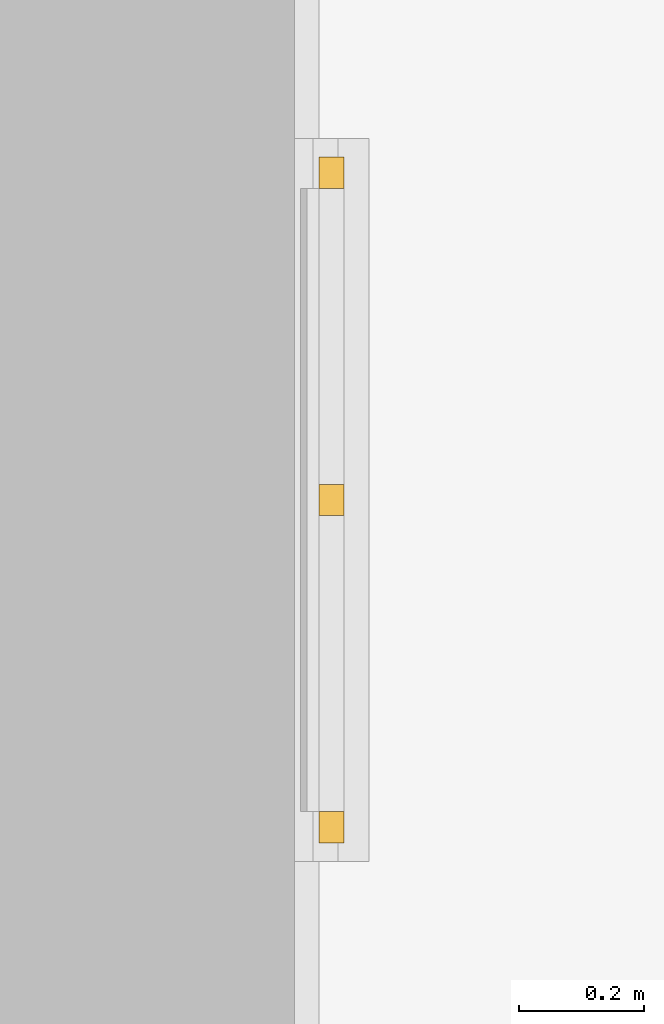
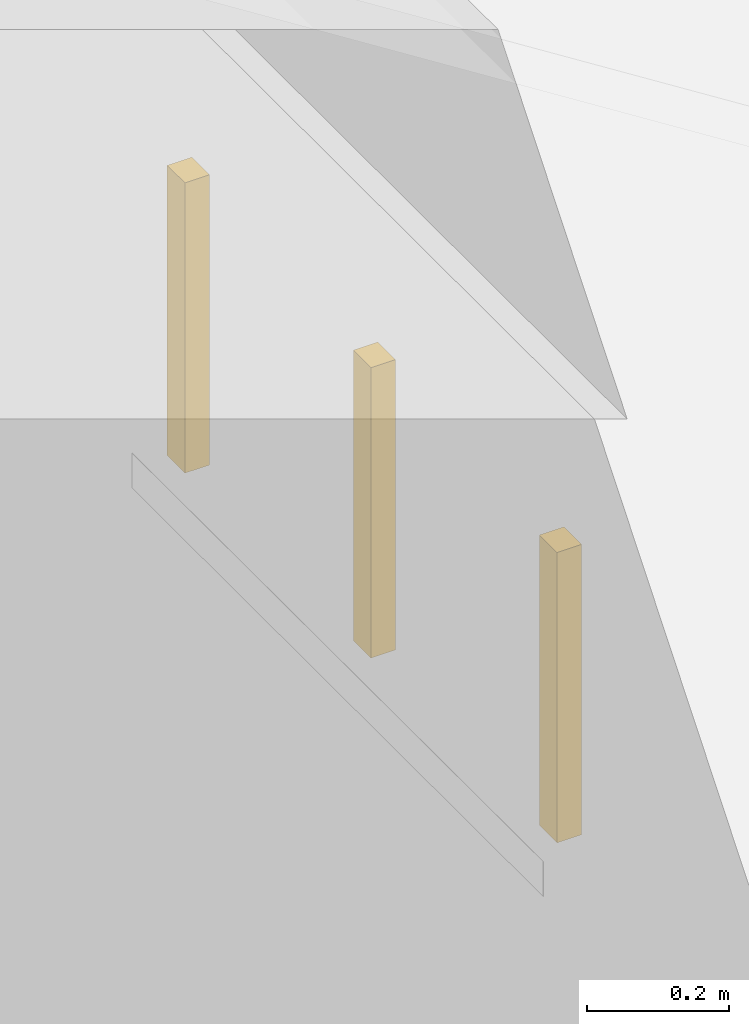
# One storey, part 76 of 177: 3 windows.
"""IFC4 building model written with IfcOpenShell, lengths in metres."""

from ifc_helpers import new_model, si_unit, origin, origin_with_axes, place, context, subcontext, project, spatial, triangles, element, save


model = new_model("IFC4")

# Units and contexts
model_context = context("Model", 3, precision=1e-05, world=origin_with_axes())
body_context = subcontext(model_context, "Body", "Model", "MODEL_VIEW")
ifc_project = project(units=[si_unit("LENGTHUNIT", "METRE"), si_unit("AREAUNIT", "SQUARE_METRE"), si_unit("VOLUMEUNIT", "CUBIC_METRE"), si_unit("PLANEANGLEUNIT", "RADIAN")], contexts=[model_context])

# Site, building, storey
site_placement = place(None, origin_with_axes())
site = spatial("IfcSite", under=ifc_project, at=site_placement, Name="Predio Los Mangos - Morales, San Martín", CompositionType="ELEMENT")
building_placement = place(site_placement, origin())
building = spatial("IfcBuilding", under=site, at=building_placement, Name="Hogar de Refugio Temporal", CompositionType="ELEMENT")
storey_placement = place(building_placement, origin())
storey = spatial("IfcBuildingStorey", under=building, at=storey_placement, Name="NIVEL 1 (NPT +0.00)", CompositionType="ELEMENT", Elevation=0.0)

# Windows
window_1_placement = place(storey_placement, origin())
element("IfcWindow", 1, at=window_1_placement, inside=storey, Name="E-01_vt1_m", ObjectType="Ventana", PredefinedType="WINDOW", context=body_context, shape_type="Tessellation", body=[
    triangles([(31.64, 31.35, 2.45), (31.68, 31.35, 2.45), (31.68, 31.4, 2.45), (31.64, 31.4, 2.45), (31.64, 31.35, 2.95), (31.68, 31.35, 2.95), (31.68, 31.4, 2.95), (31.64, 31.4, 2.95)], [[1, 4, 3], [1, 3, 2], [5, 6, 7], [5, 7, 8], [1, 2, 6], [1, 6, 5], [2, 3, 7], [2, 7, 6], [3, 4, 8], [3, 8, 7], [4, 1, 5], [4, 5, 8]]),
])
window_2_placement = place(storey_placement, origin())
element("IfcWindow", 2, at=window_2_placement, inside=storey, Name="E-01_vt1_m", ObjectType="Ventana", PredefinedType="WINDOW", context=body_context, shape_type="Tessellation", body=[
    triangles([(31.64, 32.4, 2.45), (31.68, 32.4, 2.45), (31.68, 32.45, 2.45), (31.64, 32.45, 2.45), (31.64, 32.4, 2.95), (31.68, 32.4, 2.95), (31.68, 32.45, 2.95), (31.64, 32.45, 2.95)], [[1, 4, 3], [1, 3, 2], [5, 6, 7], [5, 7, 8], [1, 2, 6], [1, 6, 5], [2, 3, 7], [2, 7, 6], [3, 4, 8], [3, 8, 7], [4, 1, 5], [4, 5, 8]]),
])
window_3_placement = place(storey_placement, origin())
element("IfcWindow", 3, at=window_3_placement, inside=storey, Name="E-01_vt1_m", ObjectType="Ventana", PredefinedType="WINDOW", context=body_context, shape_type="Tessellation", body=[
    triangles([(31.64, 31.875, 2.45), (31.68, 31.875, 2.45), (31.68, 31.925, 2.45), (31.64, 31.925, 2.45), (31.64, 31.875, 2.95), (31.68, 31.875, 2.95), (31.68, 31.925, 2.95), (31.64, 31.925, 2.95)], [[1, 4, 3], [1, 3, 2], [5, 6, 7], [5, 7, 8], [1, 2, 6], [1, 6, 5], [2, 3, 7], [2, 7, 6], [3, 4, 8], [3, 8, 7], [4, 1, 5], [4, 5, 8]]),
])

save(model, "model.ifc")
